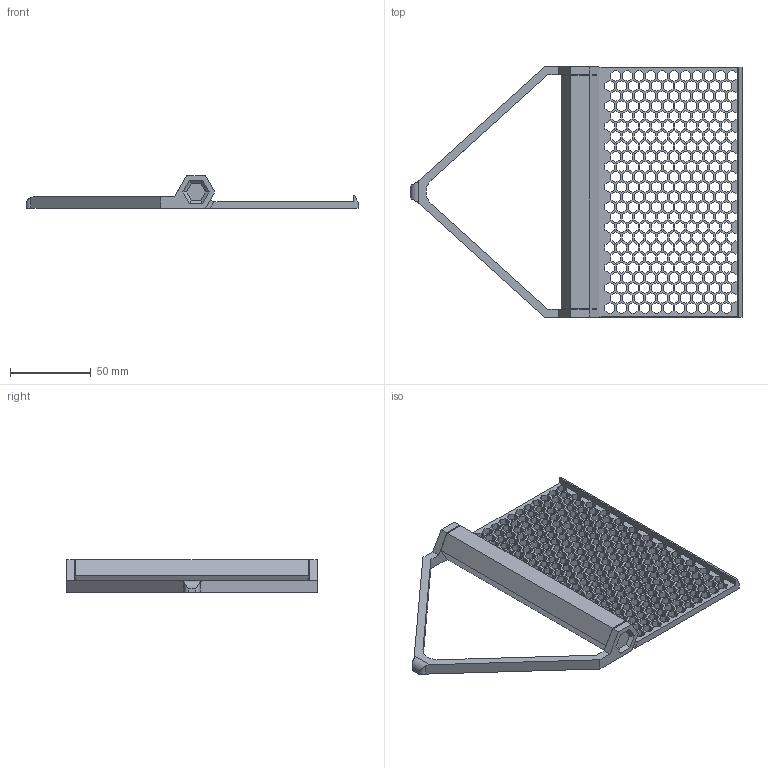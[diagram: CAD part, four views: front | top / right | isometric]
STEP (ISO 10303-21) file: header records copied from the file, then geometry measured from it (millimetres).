
FILE_DESCRIPTION(/* description */ ('STEP AP242','CAx-IF Rec.Pracs.---Representation and Presentation of Product Manufacturing Information (PMI)---4.0---2014-10-13','CAx-IF Rec.Pracs.---3D Tessellated Geometry---0.4---2014-09-14','2;1'),/* implementation_level */ '2;1');
FILE_NAME(/* name */ '65755a7b0ef17c5da1d5f101',/* time_stamp */ '2023-12-10T06:28:13Z',/* author */ (''),/* organization */ (''),/* preprocessor_version */ 'ST-DEVELOPER v19.4',/* originating_system */ ' ',/* authorisation */ ' ');
FILE_SCHEMA (('AP242_MANAGED_MODEL_BASED_3D_ENGINEERING_MIM_LF { 1 0 10303 442 1 1 4 }'));
Length unit declared in the file: metre
Products named in the file (2): Support; Shelf
Bounding box: 205 x 154.64 x 20 mm (x, y, z)
Volume: 87478.5 mm3; surface area: 55577.8 mm2
Topology: 2 solids, 2 shells, 1765 faces, 5237 edges, 3470 vertices
Faces by surface type: plane 1761, cylinder 4
Entity records: 58837 total; most frequent: CARTESIAN_POINT 10484, ORIENTED_EDGE 10474, DIRECTION 8777, EDGE_CURVE 5237, LINE 5227, VECTOR 5227, VERTEX_POINT 3470, EDGE_LOOP 2287
